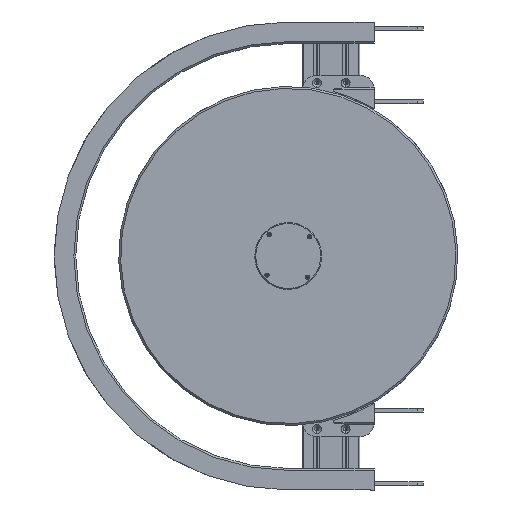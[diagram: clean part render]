
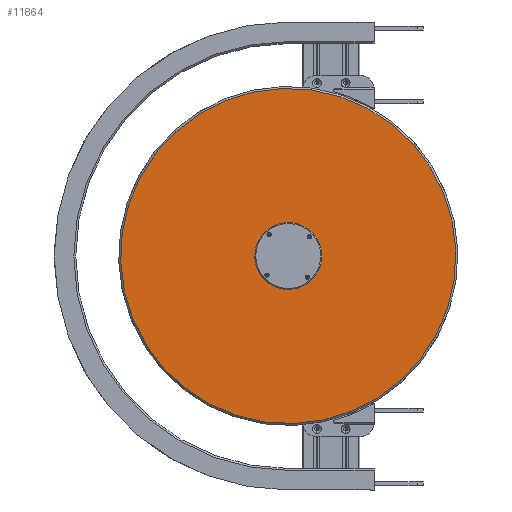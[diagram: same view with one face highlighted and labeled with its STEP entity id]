
A CAD part, front view. The second image highlights one B-rep face of the part: STEP entity #11864.
In plain terms, the highlighted planar face has unit normal (0, -1, 0) as drawn and (0, 1, 0) by its records, which use the part's own axes.
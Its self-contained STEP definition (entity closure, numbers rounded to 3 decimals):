
#11058 = EDGE_CURVE ( 'NONE', #11605, #11604, #15454, .T. ) ;
#11604 = VERTEX_POINT ( 'NONE', #17406 ) ;
#11605 = VERTEX_POINT ( 'NONE', #17404 ) ;
#11614 = VERTEX_POINT ( 'NONE', #17503 ) ;
#11621 = EDGE_CURVE ( 'NONE', #11734, #11614, #17541, .T. ) ;
#11701 = VERTEX_POINT ( 'NONE', #23787 ) ;
#11704 = EDGE_CURVE ( 'NONE', #11740, #11742, #23780, .T. ) ;
#11718 = EDGE_CURVE ( 'NONE', #11701, #11897, #23760, .T. ) ;
#11734 = VERTEX_POINT ( 'NONE', #23736 ) ;
#11740 = VERTEX_POINT ( 'NONE', #23747 ) ;
#11742 = VERTEX_POINT ( 'NONE', #23749 ) ;
#11772 = VERTEX_POINT ( 'NONE', #23861 ) ;
#11860 = EDGE_LOOP ( 'NONE', ( #11861, #11893 ) ) ;
#11861 = ORIENTED_EDGE ( 'NONE', *, *, #11939, .F. ) ;
#11862 = EDGE_LOOP ( 'NONE', ( #11934, #11890 ) ) ;
#11863 = EDGE_CURVE ( 'NONE', #11742, #11740, #23253, .T. ) ;
#11864 = ADVANCED_FACE ( 'NONE', ( #23286, #23289, #23212, #23226, #23268, #23285 ), #23225, .T. ) ;
#11865 = ORIENTED_EDGE ( 'NONE', *, *, #11899, .F. ) ;
#11866 = ORIENTED_EDGE ( 'NONE', *, *, #11058, .F. ) ;
#11867 = ORIENTED_EDGE ( 'NONE', *, *, #11863, .F. ) ;
#11868 = ORIENTED_EDGE ( 'NONE', *, *, #11975, .F. ) ;
#11876 = EDGE_LOOP ( 'NONE', ( #11877, #11906 ) ) ;
#11877 = ORIENTED_EDGE ( 'NONE', *, *, #11923, .F. ) ;
#11878 = ORIENTED_EDGE ( 'NONE', *, *, #11704, .F. ) ;
#11890 = ORIENTED_EDGE ( 'NONE', *, *, #12025, .T. ) ;
#11893 = ORIENTED_EDGE ( 'NONE', *, *, #11621, .F. ) ;
#11897 = VERTEX_POINT ( 'NONE', #23247 ) ;
#11898 = EDGE_LOOP ( 'NONE', ( #11867, #11878 ) ) ;
#11899 = EDGE_CURVE ( 'NONE', #11604, #11605, #23257, .T. ) ;
#11906 = ORIENTED_EDGE ( 'NONE', *, *, #11718, .F. ) ;
#11907 = EDGE_CURVE ( 'NONE', #12009, #12010, #23296, .T. ) ;
#11908 = EDGE_LOOP ( 'NONE', ( #11865, #11866 ) ) ;
#11922 = EDGE_CURVE ( 'NONE', #11772, #12020, #23648, .T. ) ;
#11923 = EDGE_CURVE ( 'NONE', #11897, #11701, #23662, .T. ) ;
#11929 = ORIENTED_EDGE ( 'NONE', *, *, #11907, .F. ) ;
#11932 = EDGE_LOOP ( 'NONE', ( #11929, #11868 ) ) ;
#11934 = ORIENTED_EDGE ( 'NONE', *, *, #11922, .T. ) ;
#11939 = EDGE_CURVE ( 'NONE', #11614, #11734, #23621, .T. ) ;
#11975 = EDGE_CURVE ( 'NONE', #12010, #12009, #23672, .T. ) ;
#12009 = VERTEX_POINT ( 'NONE', #23709 ) ;
#12010 = VERTEX_POINT ( 'NONE', #23684 ) ;
#12020 = VERTEX_POINT ( 'NONE', #23301 ) ;
#12025 = EDGE_CURVE ( 'NONE', #12020, #11772, #23152, .T. ) ;
#15454 = CIRCLE ( 'NONE', #15565, 0.75 ) ;
#15559 = DIRECTION ( 'NONE',  ( 0., 0., 1. ) ) ;
#15560 = DIRECTION ( 'NONE',  ( 0., 1., 0. ) ) ;
#15564 = CARTESIAN_POINT ( 'NONE',  ( 30., 10., 0. ) ) ;
#15565 = AXIS2_PLACEMENT_3D ( 'NONE', #15564, #15560, #15559 ) ;
#17404 = CARTESIAN_POINT ( 'NONE',  ( 30., 10., -0.75 ) ) ;
#17406 = CARTESIAN_POINT ( 'NONE',  ( 30., 10., 0.75 ) ) ;
#17503 = CARTESIAN_POINT ( 'NONE',  ( 0., 10., -29.25 ) ) ;
#17514 = AXIS2_PLACEMENT_3D ( 'NONE', #17537, #17518, #17532 ) ;
#17518 = DIRECTION ( 'NONE',  ( 0., 1., 0. ) ) ;
#17532 = DIRECTION ( 'NONE',  ( 0., 0., 1. ) ) ;
#17537 = CARTESIAN_POINT ( 'NONE',  ( 0., 10., -30. ) ) ;
#17541 = CIRCLE ( 'NONE', #17514, 0.75 ) ;
#23152 = CIRCLE ( 'NONE', #23419, 175.5 ) ;
#23212 = FACE_BOUND ( 'NONE', #11898, .T. ) ;
#23215 = DIRECTION ( 'NONE',  ( 0., 1., 0. ) ) ;
#23219 = DIRECTION ( 'NONE',  ( 0., 0., 1. ) ) ;
#23220 = AXIS2_PLACEMENT_3D ( 'NONE', #23304, #23303, #23287 ) ;
#23221 = CARTESIAN_POINT ( 'NONE',  ( 0., 10., 0. ) ) ;
#23225 = PLANE ( 'NONE',  #23269 ) ;
#23226 = FACE_BOUND ( 'NONE', #11876, .T. ) ;
#23231 = DIRECTION ( 'NONE',  ( 0., 1., 0. ) ) ;
#23236 = CARTESIAN_POINT ( 'NONE',  ( 0., 10., 0. ) ) ;
#23237 = DIRECTION ( 'NONE',  ( 0., 0., 1. ) ) ;
#23247 = CARTESIAN_POINT ( 'NONE',  ( -30., 10., 0.75 ) ) ;
#23253 = CIRCLE ( 'NONE', #23220, 0.75 ) ;
#23257 = CIRCLE ( 'NONE', #23274, 0.75 ) ;
#23264 = DIRECTION ( 'NONE',  ( 0., 1., 0. ) ) ;
#23268 = FACE_OUTER_BOUND ( 'NONE', #11862, .T. ) ;
#23269 = AXIS2_PLACEMENT_3D ( 'NONE', #23221, #23231, #23219 ) ;
#23273 = CARTESIAN_POINT ( 'NONE',  ( 30., 10., 0. ) ) ;
#23274 = AXIS2_PLACEMENT_3D ( 'NONE', #23273, #23264, #23237 ) ;
#23285 = FACE_BOUND ( 'NONE', #11932, .T. ) ;
#23286 = FACE_BOUND ( 'NONE', #11860, .T. ) ;
#23287 = DIRECTION ( 'NONE',  ( 0., 0., 1. ) ) ;
#23289 = FACE_BOUND ( 'NONE', #11908, .T. ) ;
#23291 = DIRECTION ( 'NONE',  ( 0., 0., 1. ) ) ;
#23292 = AXIS2_PLACEMENT_3D ( 'NONE', #23236, #23215, #23291 ) ;
#23296 = CIRCLE ( 'NONE', #23292, 25. ) ;
#23301 = CARTESIAN_POINT ( 'NONE',  ( 0., 10., 175.5 ) ) ;
#23303 = DIRECTION ( 'NONE',  ( 0., 1., 0. ) ) ;
#23304 = CARTESIAN_POINT ( 'NONE',  ( 0., 10., 30. ) ) ;
#23419 = AXIS2_PLACEMENT_3D ( 'NONE', #23468, #23467, #23669 ) ;
#23467 = DIRECTION ( 'NONE',  ( 0., 1., 0. ) ) ;
#23468 = CARTESIAN_POINT ( 'NONE',  ( 0., 10., 0. ) ) ;
#23566 = DIRECTION ( 'NONE',  ( 0., 1., 0. ) ) ;
#23567 = CARTESIAN_POINT ( 'NONE',  ( 0., 10., 0. ) ) ;
#23578 = AXIS2_PLACEMENT_3D ( 'NONE', #23567, #23566, #23605 ) ;
#23604 = AXIS2_PLACEMENT_3D ( 'NONE', #23647, #23649, #23608 ) ;
#23605 = DIRECTION ( 'NONE',  ( 0., 0., 1. ) ) ;
#23608 = DIRECTION ( 'NONE',  ( 0., 0., 1. ) ) ;
#23618 = DIRECTION ( 'NONE',  ( 0., 0., 1. ) ) ;
#23619 = DIRECTION ( 'NONE',  ( 0., 1., 0. ) ) ;
#23620 = AXIS2_PLACEMENT_3D ( 'NONE', #23625, #23619, #23618 ) ;
#23621 = CIRCLE ( 'NONE', #23620, 0.75 ) ;
#23625 = CARTESIAN_POINT ( 'NONE',  ( 0., 10., -30. ) ) ;
#23628 = CARTESIAN_POINT ( 'NONE',  ( 0., 10., 0. ) ) ;
#23647 = CARTESIAN_POINT ( 'NONE',  ( -30., 10., 0. ) ) ;
#23648 = CIRCLE ( 'NONE', #23578, 175.5 ) ;
#23649 = DIRECTION ( 'NONE',  ( 0., 1., 0. ) ) ;
#23662 = CIRCLE ( 'NONE', #23604, 0.75 ) ;
#23666 = DIRECTION ( 'NONE',  ( 0., 0., 1. ) ) ;
#23667 = DIRECTION ( 'NONE',  ( 0., 1., 0. ) ) ;
#23668 = AXIS2_PLACEMENT_3D ( 'NONE', #23628, #23667, #23666 ) ;
#23669 = DIRECTION ( 'NONE',  ( 0., 0., 1. ) ) ;
#23672 = CIRCLE ( 'NONE', #23668, 25. ) ;
#23684 = CARTESIAN_POINT ( 'NONE',  ( 0., 10., -25. ) ) ;
#23709 = CARTESIAN_POINT ( 'NONE',  ( 0., 10., 25. ) ) ;
#23736 = CARTESIAN_POINT ( 'NONE',  ( 0., 10., -30.75 ) ) ;
#23747 = CARTESIAN_POINT ( 'NONE',  ( 0., 10., 29.25 ) ) ;
#23749 = CARTESIAN_POINT ( 'NONE',  ( 0., 10., 30.75 ) ) ;
#23750 = DIRECTION ( 'NONE',  ( 0., 0., 1. ) ) ;
#23751 = DIRECTION ( 'NONE',  ( 0., 1., 0. ) ) ;
#23760 = CIRCLE ( 'NONE', #23763, 0.75 ) ;
#23763 = AXIS2_PLACEMENT_3D ( 'NONE', #23773, #23751, #23750 ) ;
#23773 = CARTESIAN_POINT ( 'NONE',  ( -30., 10., 0. ) ) ;
#23775 = DIRECTION ( 'NONE',  ( 0., 0., 1. ) ) ;
#23776 = DIRECTION ( 'NONE',  ( 0., 1., 0. ) ) ;
#23777 = CARTESIAN_POINT ( 'NONE',  ( 0., 10., 30. ) ) ;
#23780 = CIRCLE ( 'NONE', #23782, 0.75 ) ;
#23782 = AXIS2_PLACEMENT_3D ( 'NONE', #23777, #23776, #23775 ) ;
#23787 = CARTESIAN_POINT ( 'NONE',  ( -30., 10., -0.75 ) ) ;
#23861 = CARTESIAN_POINT ( 'NONE',  ( 0., 10., -175.5 ) ) ;
